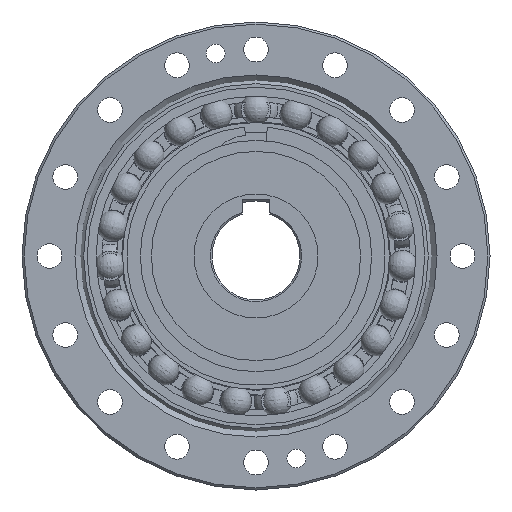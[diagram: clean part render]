
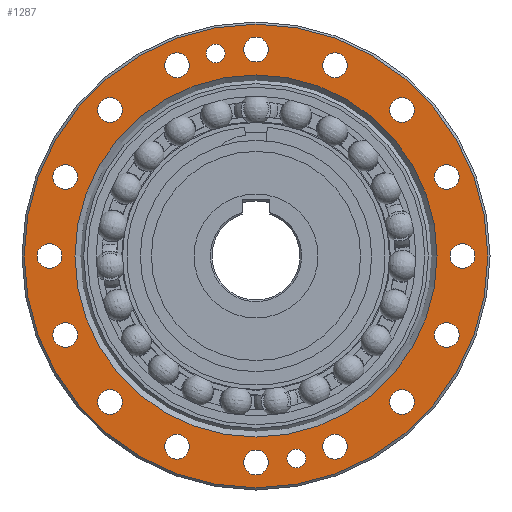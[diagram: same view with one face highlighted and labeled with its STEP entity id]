
A CAD part, left-side view. The second image highlights one B-rep face of the part: STEP entity #1287.
In plain terms, the highlighted planar face has unit normal (-1, 0, 0).
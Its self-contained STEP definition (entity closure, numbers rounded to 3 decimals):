
#1080=PLANE('',#5405);
#1287=ADVANCED_FACE('',(#1519,#1520,#1521,#1522,#1523,#1524,#1525,#1526,
#1527,#1528,#1529,#1530,#1531,#1532,#1533,#1534,#1535,#1536,#1537,#1538),
#1080,.F.);
#1519=FACE_BOUND('',#1937,.T.);
#1520=FACE_BOUND('',#1938,.T.);
#1521=FACE_BOUND('',#1939,.T.);
#1522=FACE_BOUND('',#1940,.T.);
#1523=FACE_BOUND('',#1941,.T.);
#1524=FACE_BOUND('',#1942,.T.);
#1525=FACE_BOUND('',#1943,.T.);
#1526=FACE_BOUND('',#1944,.T.);
#1527=FACE_BOUND('',#1945,.T.);
#1528=FACE_BOUND('',#1946,.T.);
#1529=FACE_BOUND('',#1947,.T.);
#1530=FACE_BOUND('',#1948,.T.);
#1531=FACE_BOUND('',#1949,.T.);
#1532=FACE_BOUND('',#1950,.T.);
#1533=FACE_BOUND('',#1951,.T.);
#1534=FACE_BOUND('',#1952,.T.);
#1535=FACE_BOUND('',#1953,.T.);
#1536=FACE_BOUND('',#1954,.T.);
#1537=FACE_BOUND('',#1955,.T.);
#1538=FACE_BOUND('',#1956,.T.);
#1937=EDGE_LOOP('',(#3186));
#1938=EDGE_LOOP('',(#3187));
#1939=EDGE_LOOP('',(#3188));
#1940=EDGE_LOOP('',(#3189));
#1941=EDGE_LOOP('',(#3190));
#1942=EDGE_LOOP('',(#3191));
#1943=EDGE_LOOP('',(#3192));
#1944=EDGE_LOOP('',(#3193));
#1945=EDGE_LOOP('',(#3194));
#1946=EDGE_LOOP('',(#3195));
#1947=EDGE_LOOP('',(#3196));
#1948=EDGE_LOOP('',(#3197));
#1949=EDGE_LOOP('',(#3198));
#1950=EDGE_LOOP('',(#3199));
#1951=EDGE_LOOP('',(#3200));
#1952=EDGE_LOOP('',(#3201));
#1953=EDGE_LOOP('',(#3202));
#1954=EDGE_LOOP('',(#3203));
#1955=EDGE_LOOP('',(#3204));
#1956=EDGE_LOOP('',(#3205));
#3186=ORIENTED_EDGE('',*,*,#4472,.T.);
#3187=ORIENTED_EDGE('',*,*,#4473,.T.);
#3188=ORIENTED_EDGE('',*,*,#4474,.T.);
#3189=ORIENTED_EDGE('',*,*,#4475,.T.);
#3190=ORIENTED_EDGE('',*,*,#4476,.T.);
#3191=ORIENTED_EDGE('',*,*,#4477,.T.);
#3192=ORIENTED_EDGE('',*,*,#4478,.T.);
#3193=ORIENTED_EDGE('',*,*,#4479,.T.);
#3194=ORIENTED_EDGE('',*,*,#4480,.T.);
#3195=ORIENTED_EDGE('',*,*,#4481,.T.);
#3196=ORIENTED_EDGE('',*,*,#4482,.T.);
#3197=ORIENTED_EDGE('',*,*,#4483,.T.);
#3198=ORIENTED_EDGE('',*,*,#4484,.T.);
#3199=ORIENTED_EDGE('',*,*,#4485,.T.);
#3200=ORIENTED_EDGE('',*,*,#4486,.T.);
#3201=ORIENTED_EDGE('',*,*,#4487,.T.);
#3202=ORIENTED_EDGE('',*,*,#4488,.T.);
#3203=ORIENTED_EDGE('',*,*,#4489,.T.);
#3204=ORIENTED_EDGE('',*,*,#4490,.T.);
#3205=ORIENTED_EDGE('',*,*,#4491,.T.);
#3809=VERTEX_POINT('',#11649);
#3810=VERTEX_POINT('',#11651);
#3811=VERTEX_POINT('',#11653);
#3812=VERTEX_POINT('',#11655);
#3813=VERTEX_POINT('',#11657);
#3814=VERTEX_POINT('',#11659);
#3815=VERTEX_POINT('',#11661);
#3816=VERTEX_POINT('',#11663);
#3817=VERTEX_POINT('',#11665);
#3818=VERTEX_POINT('',#11667);
#3819=VERTEX_POINT('',#11669);
#3820=VERTEX_POINT('',#11671);
#3821=VERTEX_POINT('',#11673);
#3822=VERTEX_POINT('',#11675);
#3823=VERTEX_POINT('',#11677);
#3824=VERTEX_POINT('',#11679);
#3825=VERTEX_POINT('',#11681);
#3826=VERTEX_POINT('',#11683);
#3827=VERTEX_POINT('',#11685);
#3828=VERTEX_POINT('',#11687);
#4472=EDGE_CURVE('',#3809,#3809,#4812,.T.);
#4473=EDGE_CURVE('',#3810,#3810,#4813,.T.);
#4474=EDGE_CURVE('',#3811,#3811,#4814,.T.);
#4475=EDGE_CURVE('',#3812,#3812,#4815,.T.);
#4476=EDGE_CURVE('',#3813,#3813,#4816,.T.);
#4477=EDGE_CURVE('',#3814,#3814,#4817,.T.);
#4478=EDGE_CURVE('',#3815,#3815,#4818,.T.);
#4479=EDGE_CURVE('',#3816,#3816,#4819,.T.);
#4480=EDGE_CURVE('',#3817,#3817,#4820,.T.);
#4481=EDGE_CURVE('',#3818,#3818,#4821,.T.);
#4482=EDGE_CURVE('',#3819,#3819,#4822,.T.);
#4483=EDGE_CURVE('',#3820,#3820,#4823,.T.);
#4484=EDGE_CURVE('',#3821,#3821,#4824,.T.);
#4485=EDGE_CURVE('',#3822,#3822,#4825,.T.);
#4486=EDGE_CURVE('',#3823,#3823,#4826,.T.);
#4487=EDGE_CURVE('',#3824,#3824,#4827,.T.);
#4488=EDGE_CURVE('',#3825,#3825,#4828,.T.);
#4489=EDGE_CURVE('',#3826,#3826,#4829,.T.);
#4490=EDGE_CURVE('',#3827,#3827,#4830,.T.);
#4491=EDGE_CURVE('',#3828,#3828,#4831,.T.);
#4812=CIRCLE('',#5385,32.882);
#4813=CIRCLE('',#5386,42.1);
#4814=CIRCLE('',#5387,1.7);
#4815=CIRCLE('',#5388,1.7);
#4816=CIRCLE('',#5389,2.25);
#4817=CIRCLE('',#5390,2.25);
#4818=CIRCLE('',#5391,2.25);
#4819=CIRCLE('',#5392,2.25);
#4820=CIRCLE('',#5393,2.25);
#4821=CIRCLE('',#5394,2.25);
#4822=CIRCLE('',#5395,2.25);
#4823=CIRCLE('',#5396,2.25);
#4824=CIRCLE('',#5397,2.25);
#4825=CIRCLE('',#5398,2.25);
#4826=CIRCLE('',#5399,2.25);
#4827=CIRCLE('',#5400,2.25);
#4828=CIRCLE('',#5401,2.25);
#4829=CIRCLE('',#5402,2.25);
#4830=CIRCLE('',#5403,2.25);
#4831=CIRCLE('',#5404,2.25);
#5385=AXIS2_PLACEMENT_3D('',#11648,#6425,#6426);
#5386=AXIS2_PLACEMENT_3D('',#11650,#6427,#6428);
#5387=AXIS2_PLACEMENT_3D('',#11652,#6429,#6430);
#5388=AXIS2_PLACEMENT_3D('',#11654,#6431,#6432);
#5389=AXIS2_PLACEMENT_3D('',#11656,#6433,#6434);
#5390=AXIS2_PLACEMENT_3D('',#11658,#6435,#6436);
#5391=AXIS2_PLACEMENT_3D('',#11660,#6437,#6438);
#5392=AXIS2_PLACEMENT_3D('',#11662,#6439,#6440);
#5393=AXIS2_PLACEMENT_3D('',#11664,#6441,#6442);
#5394=AXIS2_PLACEMENT_3D('',#11666,#6443,#6444);
#5395=AXIS2_PLACEMENT_3D('',#11668,#6445,#6446);
#5396=AXIS2_PLACEMENT_3D('',#11670,#6447,#6448);
#5397=AXIS2_PLACEMENT_3D('',#11672,#6449,#6450);
#5398=AXIS2_PLACEMENT_3D('',#11674,#6451,#6452);
#5399=AXIS2_PLACEMENT_3D('',#11676,#6453,#6454);
#5400=AXIS2_PLACEMENT_3D('',#11678,#6455,#6456);
#5401=AXIS2_PLACEMENT_3D('',#11680,#6457,#6458);
#5402=AXIS2_PLACEMENT_3D('',#11682,#6459,#6460);
#5403=AXIS2_PLACEMENT_3D('',#11684,#6461,#6462);
#5404=AXIS2_PLACEMENT_3D('',#11686,#6463,#6464);
#5405=AXIS2_PLACEMENT_3D('',#11688,#6465,#6466);
#6425=DIRECTION('',(1.,0.,0.));
#6426=DIRECTION('',(0.,0.,-1.));
#6427=DIRECTION('',(-1.,0.,0.));
#6428=DIRECTION('',(0.,0.,-1.));
#6429=DIRECTION('',(1.,0.,0.));
#6430=DIRECTION('',(0.,0.,-1.));
#6431=DIRECTION('',(1.,0.,0.));
#6432=DIRECTION('',(0.,0.,-1.));
#6433=DIRECTION('',(1.,0.,0.));
#6434=DIRECTION('',(0.,0.,-1.));
#6435=DIRECTION('',(1.,0.,0.));
#6436=DIRECTION('',(0.,0.,-1.));
#6437=DIRECTION('',(1.,0.,0.));
#6438=DIRECTION('',(0.,0.,-1.));
#6439=DIRECTION('',(1.,0.,0.));
#6440=DIRECTION('',(0.,0.,-1.));
#6441=DIRECTION('',(1.,0.,0.));
#6442=DIRECTION('',(0.,0.,-1.));
#6443=DIRECTION('',(1.,0.,0.));
#6444=DIRECTION('',(0.,0.,-1.));
#6445=DIRECTION('',(1.,0.,0.));
#6446=DIRECTION('',(0.,0.,-1.));
#6447=DIRECTION('',(1.,0.,0.));
#6448=DIRECTION('',(0.,0.,-1.));
#6449=DIRECTION('',(1.,0.,0.));
#6450=DIRECTION('',(0.,0.,-1.));
#6451=DIRECTION('',(1.,0.,0.));
#6452=DIRECTION('',(0.,0.,-1.));
#6453=DIRECTION('',(1.,0.,0.));
#6454=DIRECTION('',(0.,0.,-1.));
#6455=DIRECTION('',(1.,0.,0.));
#6456=DIRECTION('',(0.,0.,-1.));
#6457=DIRECTION('',(1.,0.,0.));
#6458=DIRECTION('',(0.,0.,-1.));
#6459=DIRECTION('',(1.,0.,0.));
#6460=DIRECTION('',(0.,0.,-1.));
#6461=DIRECTION('',(1.,0.,0.));
#6462=DIRECTION('',(0.,0.,-1.));
#6463=DIRECTION('',(1.,0.,0.));
#6464=DIRECTION('',(0.,0.,-1.));
#6465=DIRECTION('',(1.,0.,0.));
#6466=DIRECTION('',(0.,0.,-1.));
#11648=CARTESIAN_POINT('',(0.,0.,0.));
#11649=CARTESIAN_POINT('',(0.,0.,-32.882));
#11650=CARTESIAN_POINT('',(0.,0.,0.));
#11651=CARTESIAN_POINT('',(0.,0.,-42.1));
#11652=CARTESIAN_POINT('',(0.,-7.316,-36.779));
#11653=CARTESIAN_POINT('',(0.,-7.316,-38.479));
#11654=CARTESIAN_POINT('',(0.,7.316,36.779));
#11655=CARTESIAN_POINT('',(0.,7.316,35.079));
#11656=CARTESIAN_POINT('',(0.,-26.517,26.517));
#11657=CARTESIAN_POINT('',(0.,-26.517,24.267));
#11658=CARTESIAN_POINT('',(0.,-14.351,34.645));
#11659=CARTESIAN_POINT('',(0.,-14.351,32.395));
#11660=CARTESIAN_POINT('',(0.,0.,37.5));
#11661=CARTESIAN_POINT('',(0.,0.,35.25));
#11662=CARTESIAN_POINT('',(0.,14.351,34.645));
#11663=CARTESIAN_POINT('',(0.,14.351,32.395));
#11664=CARTESIAN_POINT('',(0.,26.517,26.517));
#11665=CARTESIAN_POINT('',(0.,26.517,24.267));
#11666=CARTESIAN_POINT('',(0.,34.645,14.351));
#11667=CARTESIAN_POINT('',(0.,34.645,12.101));
#11668=CARTESIAN_POINT('',(0.,37.5,0.));
#11669=CARTESIAN_POINT('',(0.,37.5,-2.25));
#11670=CARTESIAN_POINT('',(0.,34.645,-14.351));
#11671=CARTESIAN_POINT('',(0.,34.645,-16.601));
#11672=CARTESIAN_POINT('',(0.,26.517,-26.517));
#11673=CARTESIAN_POINT('',(0.,26.517,-28.767));
#11674=CARTESIAN_POINT('',(0.,14.351,-34.645));
#11675=CARTESIAN_POINT('',(0.,14.351,-36.895));
#11676=CARTESIAN_POINT('',(0.,0.,-37.5));
#11677=CARTESIAN_POINT('',(0.,0.,-39.75));
#11678=CARTESIAN_POINT('',(0.,-14.351,-34.645));
#11679=CARTESIAN_POINT('',(0.,-14.351,-36.895));
#11680=CARTESIAN_POINT('',(0.,-26.517,-26.517));
#11681=CARTESIAN_POINT('',(0.,-26.517,-28.767));
#11682=CARTESIAN_POINT('',(0.,-34.645,-14.351));
#11683=CARTESIAN_POINT('',(0.,-34.645,-16.601));
#11684=CARTESIAN_POINT('',(0.,-37.5,0.));
#11685=CARTESIAN_POINT('',(0.,-37.5,-2.25));
#11686=CARTESIAN_POINT('',(0.,-34.645,14.351));
#11687=CARTESIAN_POINT('',(0.,-34.645,12.101));
#11688=CARTESIAN_POINT('',(0.,0.,42.5));
